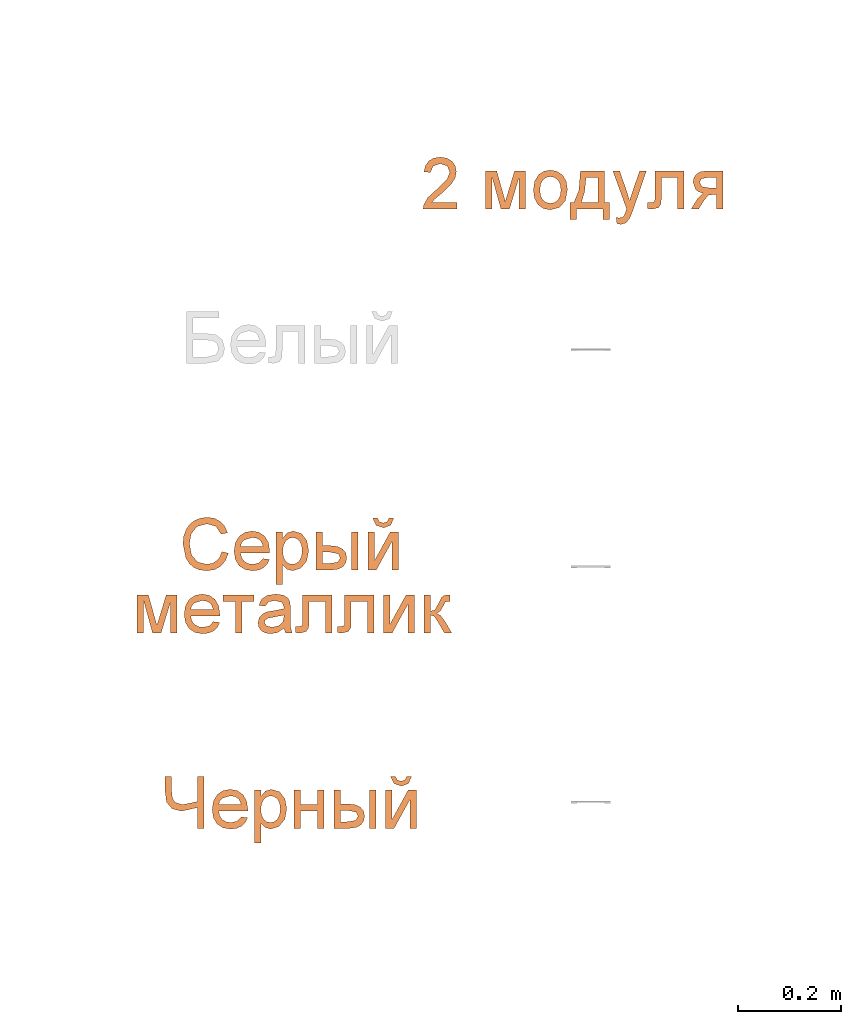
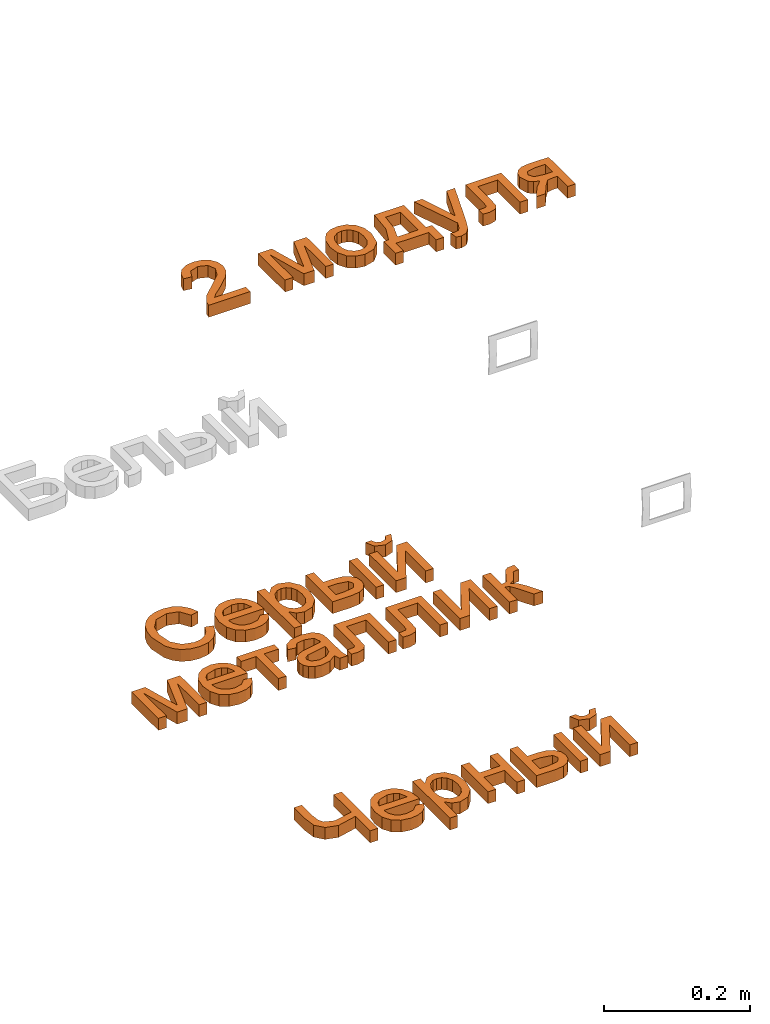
# One storey, part 60 of 87: 3 proxies.
"""IFC2X3 building model written with IfcOpenShell, lengths in millimetres."""

from ifc_helpers import new_model, entity, si_unit, converted_unit, derived_unit, direction, frame, origin, origin_2d_with_axis, place, context, subcontext, project, spatial, polyline, rectangle, outline, extrude, element, save


model = new_model("IFC2X3")

# Units and contexts
model_context = context("Model", 3, precision=0.01, world=origin(), true_north=direction((6.12303176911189e-17, 1.0)))
body_context = subcontext(model_context, "Body", "Model", "MODEL_VIEW")
ifc_project = project(units=[si_unit("LENGTHUNIT", "METRE", prefix="MILLI"), si_unit("AREAUNIT", "SQUARE_METRE"), si_unit("VOLUMEUNIT", "CUBIC_METRE"), converted_unit("PLANEANGLEUNIT", "DEGREE", entity("IfcRatioMeasure", 0.0174532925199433), si_unit("PLANEANGLEUNIT", "RADIAN"), dimensions=[0, 0, 0, 0, 0, 0, 0]), si_unit("MASSUNIT", "GRAM", prefix="KILO"), derived_unit("MASSDENSITYUNIT", [(si_unit("MASSUNIT", "GRAM", prefix="KILO"), 1), (si_unit("LENGTHUNIT", "METRE"), -3)]), si_unit("TIMEUNIT", "SECOND"), si_unit("FREQUENCYUNIT", "HERTZ"), si_unit("THERMODYNAMICTEMPERATUREUNIT", "DEGREE_CELSIUS"), derived_unit("THERMALTRANSMITTANCEUNIT", [(si_unit("MASSUNIT", "GRAM", prefix="KILO"), 1), (si_unit("THERMODYNAMICTEMPERATUREUNIT", "KELVIN"), -1), (si_unit("TIMEUNIT", "SECOND"), -3)]), derived_unit("VOLUMETRICFLOWRATEUNIT", [(si_unit("LENGTHUNIT", "METRE"), 3), (si_unit("TIMEUNIT", "SECOND"), -1)]), si_unit("ELECTRICCURRENTUNIT", "AMPERE"), si_unit("ELECTRICVOLTAGEUNIT", "VOLT"), si_unit("POWERUNIT", "WATT"), si_unit("FORCEUNIT", "NEWTON", prefix="KILO"), si_unit("ILLUMINANCEUNIT", "LUX"), si_unit("LUMINOUSFLUXUNIT", "LUMEN"), si_unit("LUMINOUSINTENSITYUNIT", "CANDELA"), derived_unit("USERDEFINED", [(si_unit("MASSUNIT", "GRAM", prefix="KILO"), -1), (si_unit("LENGTHUNIT", "METRE"), -2), (si_unit("TIMEUNIT", "SECOND"), 3), (si_unit("LUMINOUSFLUXUNIT", "LUMEN"), 1)]), derived_unit("LINEARVELOCITYUNIT", [(si_unit("LENGTHUNIT", "METRE"), 1), (si_unit("TIMEUNIT", "SECOND"), -1)]), si_unit("PRESSUREUNIT", "PASCAL"), derived_unit("USERDEFINED", [(si_unit("LENGTHUNIT", "METRE"), -2), (si_unit("MASSUNIT", "GRAM", prefix="KILO"), 1), (si_unit("TIMEUNIT", "SECOND"), -2)])], contexts=[model_context])

# Site, building, storey
site_placement = place(None, origin())
site = spatial("IfcSite", under=ifc_project, at=site_placement, Name="Default", CompositionType="ELEMENT")
building_placement = place(site_placement, origin())
building = spatial("IfcBuilding", under=site, at=building_placement, Name="Наименование здания", CompositionType="ELEMENT")
storey_placement = place(building_placement, origin())
storey = spatial("IfcBuildingStorey", under=building, at=storey_placement, Name="Этаж 01", CompositionType="ELEMENT", Elevation=0.0)

# Proxies
proxy_1_placement = place(storey_placement, origin())
element("IfcBuildingElementProxy", 1, at=proxy_1_placement, inside=storey, Name="Текст модели:100 мм Arial", ObjectType="Текст модели:100 мм Arial", context=body_context, shape_type="SweptSolid", body=[
    extrude(outline(polyline([(1.51482499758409, -34.4161092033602), (0.106407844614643, -47.3070398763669), (15.8423468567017, -47.0569587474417), (29.055696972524, -42.3279421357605), (39.3932861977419, -33.4650471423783), (46.5019425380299, -20.8133308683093), (50.1054677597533, -6.6050258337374), (49.563695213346, 5.9640118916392), (45.1423030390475, 17.1113098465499), (37.1069693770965, 27.0543955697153), (13.842765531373, 41.4649352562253), (-0.385561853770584, 45.2497080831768), (-13.7947428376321, 45.5463194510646), (-25.9267527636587, 42.4308274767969), (-36.3235669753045, 35.9792902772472), (-44.6338782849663, 26.8094665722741), (-50.5063795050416, 15.5391150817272), (-53.5414697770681, 1.96814719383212), (-52.074324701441, -10.7537866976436), (-46.3177039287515, -22.1661847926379), (-36.4843671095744, -31.8085452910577), (-29.2483218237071, -21.1187569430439), (-40.0515191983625, -6.02732816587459), (-38.5860312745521, 11.5610351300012), (-26.6200251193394, 28.0408775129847), (-9.20796903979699, 33.327216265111), (9.38287380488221, 29.7265712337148), (28.2800845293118, 18.5384764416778), (37.0403955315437, 2.61944954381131), (35.1968742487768, -15.2062682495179), (30.0363719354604, -24.4614258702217), (22.5795019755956, -30.981293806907), (13.0108058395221, -34.4161092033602), (1.51482499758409, -34.4161092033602)])), frame((76558.772011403, -8017.95411281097, 0.0), z_axis=(0.0, 0.0, -1.0), x_axis=(-0.353343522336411, -0.93549364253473, 0.0)), (0.0, 0.0, -1.0), 20.0),
    extrude(outline(polyline([(-8.10128238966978, -20.3751729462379), (-15.5352214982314, -30.3140016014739), (-5.78400372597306, -33.5775071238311), (4.12185089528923, -33.3132173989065), (13.8776168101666, -29.4480778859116), (23.1785684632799, -21.9090340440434), (31.6380426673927, -9.59237957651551), (34.1620486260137, 3.74135328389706), (30.6040508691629, 17.2442201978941), (20.8175139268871, 30.0682768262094), (7.27698270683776, 39.7846728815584), (-6.66179525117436, 43.1117813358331), (-19.9642596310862, 40.4221234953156), (-31.595850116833, 32.0882206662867), (-39.2435519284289, 20.5090048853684), (-41.3106827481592, 7.34319797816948), (-37.4373707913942, -6.34962495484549), (-27.2637442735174, -19.5098888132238), (-24.7804584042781, -21.810680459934), (14.4643272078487, 18.7422646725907), (19.707198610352, 10.6437992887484), (21.1614672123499, 2.21005051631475), (19.1472085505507, -5.98136753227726), (13.9844981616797, -13.3528407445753), (3.5368460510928, -20.3751729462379), (-8.10128238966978, -20.3751729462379)]), holes=[polyline([(5.44081225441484, 27.4746984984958), (-25.1227061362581, -4.107603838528), (-29.8038819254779, 7.41909510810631), (-27.8851342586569, 15.7498710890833), (-22.5382240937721, 23.3910349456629), (-8.40970331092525, 31.2368652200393), (-1.08072680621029, 30.9147288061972), (5.44081225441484, 27.4746984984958)])]), frame((76650.0613302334, -8036.91845939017, 0.0), z_axis=(0.0, 0.0, -1.0), x_axis=(-0.695421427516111, -0.718602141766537, 0.0)), (0.0, 0.0, -1.0), 20.0),
    extrude(outline(polyline([(-28.8983569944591, -61.2335493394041), (-16.3413182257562, -61.2335493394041), (-16.3413182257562, -23.1700255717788), (-8.38280439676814, -31.3247431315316), (2.54329085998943, -34.5498419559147), (18.4235303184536, -29.7305878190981), (29.9259740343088, -15.8736993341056), (33.8868368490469, 4.4701749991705), (30.3796951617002, 23.8207679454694), (19.9808974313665, 37.505978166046), (4.06386977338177, 42.3620205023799), (-7.65930313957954, 38.8916670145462), (-16.3413182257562, 28.4806065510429), (-16.3413182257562, 40.7923906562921), (-28.8983569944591, 40.7923906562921), (-28.8983569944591, -61.2335493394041)]), holes=[polyline([(-16.3413182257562, 3.3174780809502), (-14.8912500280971, 14.7064915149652), (-10.5410454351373, 23.0236902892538), (-4.30851130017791, 28.1096588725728), (2.78854552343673, 29.8049817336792), (9.85801119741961, 28.2108264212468), (15.8606190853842, 23.4283604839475), (19.9625033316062, 15.4453211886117), (21.329798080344, 4.24944580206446), (19.9287808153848, -7.43080754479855), (15.7257290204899, -15.5916564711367), (9.56063991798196, -20.3925165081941), (2.2735107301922, -21.9928031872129), (-4.89712249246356, -20.4476988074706), (-10.9089274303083, -15.8123856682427), (-14.9832205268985, -7.93971097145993), (-16.3413182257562, 3.3174780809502)])]), frame((76724.4963658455, -8034.26079810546, 0.0)), (0.0, 0.0, 1.0), 20.0),
    extrude(outline(polyline([(-42.3988715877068, -34.5139341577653), (31.3737311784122, -34.5139341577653), (31.3737311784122, -3.73447389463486), (29.6538828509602, 9.31613988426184), (24.4943378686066, 18.2526066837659), (16.9129030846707, 23.4121516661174), (7.92738535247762, 25.1319999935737), (-1.94104916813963, 23.0810578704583), (-9.42438208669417, 16.9282315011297), (-14.1424686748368, 6.9862205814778), (-15.7151642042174, -6.43227519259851), (-15.7151642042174, -21.9568953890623), (-42.3988715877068, -21.9568953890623), (-42.3988715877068, -34.5139341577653)]), holes=[polyline([(18.8166924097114, -21.9568953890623), (-3.15812543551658, -21.9568953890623), (-3.15812543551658, -7.41329384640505), (0.226388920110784, 8.8838785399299), (7.95191081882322, 12.5749612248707), (16.1802047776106, 7.59629155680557), (18.8166924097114, -9.05650009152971), (18.8166924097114, -21.9568953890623)])]), frame((76807.0238054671, -8035.86727903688, 0.0), z_axis=(0.0, 0.0, 1.0), x_axis=(0.0, -1.0, 0.0)), (0.0, 0.0, 1.0), 20.0),
    extrude(outline(polyline([(-11.1429830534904, -6.65049913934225), (-15.3141401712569, -15.0941956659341), (-0.0922190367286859, -15.8161107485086), (10.2631635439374, -5.84547547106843), (12.4162171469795, 9.42172447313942), (2.76087400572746, 21.4951559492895), (-1.41028311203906, 13.0514594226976), (3.36929976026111, 6.75127419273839), (2.31913688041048, -0.662833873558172), (-3.16906596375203, -6.65049913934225), (-11.1429830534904, -6.65049913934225)])), frame((76902.8786664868, -7973.82964027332, 0.0), z_axis=(0.0, 0.0, -1.0), x_axis=(-0.442902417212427, -0.896569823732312, 0.0)), (0.0, 0.0, -1.0), 20.0),
    extrude(outline(polyline([(-40.5839870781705, -38.4502715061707), (33.1886156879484, -38.4502715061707), (33.1886156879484, -25.8932327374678), (-29.0570178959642, -25.8932327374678), (33.1886156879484, -8.62730443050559), (33.1886156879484, 7.85380895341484), (-26.2120637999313, 25.9045521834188), (33.1886156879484, 25.9045521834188), (33.1886156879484, 38.4615909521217), (-40.5839870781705, 38.4615909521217), (-40.5839870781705, 17.7620973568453), (18.4733358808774, -0.190544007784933), (-40.5839870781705, -16.8433356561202), (-40.5839870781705, -38.4502715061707)])), frame((76464.8567617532, -8156.02721237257, 0.0), z_axis=(0.0, 0.0, 1.0), x_axis=(0.0, -1.0, 0.0)), (0.0, 0.0, 1.0), 20.0),
    extrude(outline(polyline([(-8.10128238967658, -20.3751729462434), (-15.5352214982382, -30.3140016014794), (-5.78400372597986, -33.5775071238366), (4.12185089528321, -33.3132173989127), (13.8776168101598, -29.4480778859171), (23.178568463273, -21.9090340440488), (31.6380426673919, -9.59237957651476), (34.1620486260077, 3.74135328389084), (30.604050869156, 17.2442201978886), (20.8175139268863, 30.0682768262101), (7.27698270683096, 39.7846728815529), (-6.66179525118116, 43.1117813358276), (-19.964259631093, 40.4221234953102), (-31.5958501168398, 32.0882206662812), (-39.2435519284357, 20.5090048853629), (-41.3106827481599, 7.34319797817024), (-37.437370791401, -6.34962495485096), (-27.2637442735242, -19.5098888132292), (-24.7804584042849, -21.8106804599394), (14.4643272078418, 18.7422646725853), (19.707198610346, 10.6437992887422), (21.1614672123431, 2.21005051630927), (19.1472085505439, -5.98136753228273), (13.9844981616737, -13.3528407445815), (3.536846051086, -20.3751729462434), (-8.10128238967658, -20.3751729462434)]), holes=[polyline([(5.44081225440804, 27.4746984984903), (-25.1227061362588, -4.10760383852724), (-29.803881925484, 7.41909510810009), (-27.8851342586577, 15.749871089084), (-22.5382240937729, 23.3910349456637), (-8.40970331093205, 31.2368652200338), (-1.08072680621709, 30.9147288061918), (5.44081225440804, 27.4746984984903)])]), frame((76553.529094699, -8158.8932772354, 0.0), z_axis=(0.0, 0.0, -1.0), x_axis=(-0.695421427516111, -0.718602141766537, 0.0)), (0.0, 0.0, -1.0), 20.0),
    extrude(outline(polyline([(-24.7216700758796, -29.8229670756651), (-12.1646313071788, -29.8229670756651), (-12.1646313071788, -6.27851938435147), (49.0509326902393, -6.27851938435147), (49.0509326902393, 6.27851938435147), (-12.1646313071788, 6.27851938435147), (-12.1646313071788, 29.8229670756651), (-24.7216700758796, 29.8229670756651), (-24.7216700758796, -29.8229670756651)])), frame((76622.610221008, -8140.16489537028, 0.0), z_axis=(0.0, 0.0, 1.0), x_axis=(0.0, -1.0, 0.0)), (0.0, 0.0, 1.0), 20.0),
    extrude(outline(polyline([(32.0508237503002, 7.88266535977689), (41.9780345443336, 7.88266535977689), (45.948918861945, 19.7953183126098), (35.1414436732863, 20.7608946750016), (14.2438893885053, 27.0545912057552), (-0.577126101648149, 31.9949297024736), (-11.1945882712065, 34.8877809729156), (-20.4974705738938, 33.9299602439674), (-28.5323068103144, 27.5470739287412), (-35.4619652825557, 13.8157249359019), (-38.3044049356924, -2.69989645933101), (-34.9462156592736, -15.3493345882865), (-25.030638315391, -24.3807697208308), (-19.5706723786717, -12.9644773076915), (-25.786812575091, -4.50695904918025), (-24.0611841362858, 8.30922519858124), (-16.227994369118, 20.3304570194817), (-6.3395617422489, 20.6794605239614), (-3.71040200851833, 19.7255176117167), (-6.50243004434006, -2.30048133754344), (-8.14662433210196, -13.2049019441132), (-7.01817966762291, -22.8490321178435), (-2.17478658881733, -31.1204151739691), (6.48825595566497, -36.5416029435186), (15.0010331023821, -37.7020395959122), (22.9495879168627, -35.3200906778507), (29.637852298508, -29.3899394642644), (34.3697581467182, -19.9057692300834), (36.2737661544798, -6.36055543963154), (32.0508237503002, 7.88266535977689)]), holes=[polyline([(8.22551784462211, 15.8244339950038), (11.5759514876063, 14.6300664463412), (20.1614376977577, 9.67421668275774), (24.4696920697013, -0.396473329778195), (23.3024692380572, -13.3987927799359), (17.249197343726, -22.9498553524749), (9.62153186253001, -24.3497471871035), (5.58084684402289, -21.1932043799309), (3.98706417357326, -15.5044472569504), (5.47226797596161, -4.61166010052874), (8.22551784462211, 15.8244339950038)])]), frame((76692.8959790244, -8151.8846854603, 0.0), z_axis=(0.0, 0.0, 1.0), x_axis=(0.316227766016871, -0.948683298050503, 0.0)), (0.0, 0.0, 1.0), 20.0),
    extrude(outline(polyline([(-49.3689973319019, 12.5447760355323), (-49.3689973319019, -43.9618984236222), (24.3300290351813, -43.9618984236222), (24.3300290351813, -31.4048596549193), (-36.8119585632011, -31.4048596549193), (-36.8119585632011, -0.0122627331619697), (-1.61791435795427, -0.0122627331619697), (14.6179443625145, 0.833865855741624), (21.4728122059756, 5.48144172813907), (24.403605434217, 16.4688506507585), (23.7659433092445, 26.6714446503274), (11.8465666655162, 26.6714446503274), (11.8465666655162, 21.0551128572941), (11.0740144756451, 15.3774673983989), (8.62146784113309, 13.1088617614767), (-2.32915288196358, 12.5447760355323), (-49.3689973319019, 12.5447760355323)])), frame((76759.1557548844, -8164.8122226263, 0.0), z_axis=(0.0, 0.0, -1.0), x_axis=(0.0, -1.0, 0.0)), (0.0, 0.0, -1.0), 20.0),
    extrude(outline(polyline([(-36.9206370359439, -29.8425874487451), (36.851965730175, -29.8425874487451), (36.851965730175, -13.4105249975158), (-19.0660975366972, 17.2463079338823), (36.851965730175, 17.2463079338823), (36.851965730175, 29.8033467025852), (-36.9206370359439, 29.8033467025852), (-36.9206370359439, 13.5674879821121), (19.34078275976, -17.2855486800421), (-36.9206370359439, -17.2855486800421), (-36.9206370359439, -29.8425874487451)])), frame((76902.8087689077, -8030.38904448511, 0.0), z_axis=(0.0, 0.0, 1.0), x_axis=(0.0, -1.0, 0.0)), (0.0, 0.0, 1.0), 20.0),
    extrude(rectangle(XDim=73.7726027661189, YDim=12.5570387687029, at=origin_2d_with_axis()), frame((76847.8521039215, -8030.35470883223, 0.0), z_axis=(0.0, 0.0, 1.0), x_axis=(0.0, -1.0, 0.0)), (0.0, 0.0, 1.0), 20.0),
    extrude(outline(polyline([(-49.3689973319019, 12.5447760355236), (-49.3689973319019, -43.9618984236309), (24.3300290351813, -43.9618984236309), (24.3300290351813, -31.4048596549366), (-36.8119585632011, -31.4048596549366), (-36.8119585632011, -0.0122627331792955), (-1.61791435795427, -0.0122627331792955), (14.6179443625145, 0.833865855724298), (21.4728122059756, 5.4814417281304), (24.403605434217, 16.4688506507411), (23.7659433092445, 26.6714446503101), (11.8465666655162, 26.6714446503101), (11.8465666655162, 21.0551128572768), (11.0740144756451, 15.3774673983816), (8.62146784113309, 13.1088617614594), (-2.32915288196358, 12.5447760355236), (-49.3689973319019, 12.5447760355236)])), frame((76840.776506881, -8164.8122226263, 0.0), z_axis=(0.0, 0.0, -1.0), x_axis=(0.0, -1.0, 0.0)), (0.0, 0.0, -1.0), 20.0),
    extrude(outline(polyline([(-36.9206370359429, -29.8425874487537), (36.851965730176, -29.8425874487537), (36.851965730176, -13.4105249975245), (-19.0660975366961, 17.2463079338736), (36.851965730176, 17.2463079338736), (36.851965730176, 29.8033467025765), (-36.9206370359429, 29.8033467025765), (-36.9206370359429, 13.5674879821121), (19.3407827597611, -17.2855486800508), (-36.9206370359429, -17.2855486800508), (-36.9206370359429, -29.8425874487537)])), frame((76933.4165509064, -8152.36386233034, 0.0), z_axis=(0.0, 0.0, 1.0), x_axis=(0.0, -1.0, 0.0)), (0.0, 0.0, 1.0), 20.0),
    extrude(outline(polyline([(-30.3295712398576, -29.5353037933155), (43.4430315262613, -29.5353037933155), (43.4430315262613, -16.9782650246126), (8.91117491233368, -16.9782650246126), (11.2288314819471, -10.2337617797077), (20.8060260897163, -3.61188586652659), (43.4430315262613, 9.55828956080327), (43.4430315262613, 23.8321109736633), (20.3155167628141, 10.3921554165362), (10.0209522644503, 2.61758258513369), (5.13425309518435, -5.30414304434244), (0.75645735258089, 1.79597946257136), (-8.18307513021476, 6.86048826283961), (-16.4481572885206, 11.176970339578), (-17.7725324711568, 17.3083369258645), (-17.6989560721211, 20.6928512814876), (-30.3295712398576, 20.6928512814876), (-30.3295712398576, 18.2893555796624), (-29.3730780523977, 9.10456843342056), (-25.681995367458, 4.05232236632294), (-14.3389671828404, -1.67437402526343), (-1.19331722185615, -8.56603006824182), (1.06302568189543, -16.9782650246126), (-30.3295712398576, -16.9782650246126), (-30.3295712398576, -29.5353037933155)])), frame((77011.5907595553, -8145.77279653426, 0.0), z_axis=(0.0, 0.0, 1.0), x_axis=(0.0, -1.0, 0.0)), (0.0, 0.0, 1.0), 20.0),
])
proxy_2_placement = place(storey_placement, origin())
element("IfcBuildingElementProxy", 2, at=proxy_2_placement, inside=storey, Name="Текст модели:100 мм Arial", ObjectType="Текст модели:100 мм Arial", context=body_context, shape_type="SweptSolid", body=[
    extrude(outline(polyline([(-57.0521744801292, -41.5683661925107), (43.4041356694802, -41.5683661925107), (43.4041356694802, -29.0113274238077), (-5.30344049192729, -29.0113274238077), (-11.5329089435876, 0.689012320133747), (-6.37029827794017, 15.1835629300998), (1.59741260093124, 19.7085114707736), (15.1753239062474, 21.2168276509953), (43.4041356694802, 21.2168276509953), (43.4041356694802, 33.7738664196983), (13.4830667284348, 33.7738664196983), (-6.5174510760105, 31.0883278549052), (-19.1235407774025, 20.4442754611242), (-24.0899477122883, 2.08696390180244), (-16.8304096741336, -29.0113274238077), (-57.0521744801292, -29.0113274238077), (-57.0521744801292, -41.5683661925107)])), frame((76514.3325863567, -8510.18883573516, 0.0), z_axis=(0.0, 0.0, 1.0), x_axis=(0.0, 1.0, 0.0)), (0.0, 0.0, 1.0), 20.0),
    extrude(outline(polyline([(-8.10128238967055, -20.3751729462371), (-15.5352214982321, -30.3140016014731), (-5.78400372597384, -33.5775071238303), (4.12185089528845, -33.3132173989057), (13.8776168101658, -29.4480778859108), (23.1785684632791, -21.9090340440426), (31.6380426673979, -9.59237957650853), (34.1620486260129, 3.74135328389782), (30.6040508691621, 17.2442201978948), (20.8175139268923, 30.0682768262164), (7.27698270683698, 39.7846728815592), (-6.66179525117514, 43.1117813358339), (-19.9642596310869, 40.4221234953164), (-31.5958501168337, 32.0882206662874), (-39.2435519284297, 20.5090048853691), (-41.3106827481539, 7.34319797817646), (-37.437370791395, -6.34962495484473), (-27.2637442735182, -19.509888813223), (-24.7804584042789, -21.8106804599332), (14.4643272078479, 18.7422646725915), (19.7071986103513, 10.6437992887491), (21.1614672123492, 2.2100505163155), (19.1472085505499, -5.9813675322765), (13.984498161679, -13.3528407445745), (3.53684605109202, -20.3751729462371), (-8.10128238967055, -20.3751729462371)]), holes=[polyline([(5.44081225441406, 27.4746984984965), (-25.1227061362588, -4.10760383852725), (-29.8038819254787, 7.41909510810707), (-27.8851342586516, 15.7498710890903), (-22.5382240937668, 23.3910349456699), (-8.40970331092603, 31.2368652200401), (-1.08072680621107, 30.914728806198), (5.44081225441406, 27.4746984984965)])]), frame((76607.681324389, -8536.91845939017, 0.0), z_axis=(0.0, 0.0, -1.0), x_axis=(-0.695421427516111, -0.718602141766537, 0.0)), (0.0, 0.0, -1.0), 20.0),
    extrude(outline(polyline([(-28.8983569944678, -61.233549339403), (-16.3413182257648, -61.233549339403), (-16.3413182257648, -23.1700255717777), (-8.38280439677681, -31.3247431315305), (2.5432908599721, -34.5498419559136), (18.4235303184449, -29.730587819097), (29.9259740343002, -15.8736993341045), (33.8868368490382, 4.47017499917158), (30.3796951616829, 23.8207679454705), (19.9808974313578, 37.5059781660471), (4.06386977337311, 42.362020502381), (-7.65930313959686, 38.8916670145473), (-16.3413182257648, 28.480606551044), (-16.3413182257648, 40.7923906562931), (-28.8983569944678, 40.7923906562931), (-28.8983569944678, -61.233549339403)]), holes=[polyline([(-16.3413182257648, 3.31747808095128), (-14.8912500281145, 14.7064915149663), (-10.541045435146, 23.0236902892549), (-4.30851130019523, 28.1096588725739), (2.78854552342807, 29.8049817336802), (9.85801119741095, 28.2108264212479), (15.8606190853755, 23.4283604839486), (19.9625033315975, 15.4453211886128), (21.3297980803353, 4.24944580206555), (19.9287808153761, -7.43080754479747), (15.7257290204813, -15.5916564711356), (9.5606399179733, -20.392516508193), (2.27351073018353, -21.9928031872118), (-4.89712249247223, -20.4476988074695), (-10.9089274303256, -15.8123856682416), (-14.9832205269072, -7.93971097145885), (-16.3413182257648, 3.31747808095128)])]), frame((76682.1163600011, -8534.26079810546, 0.0)), (0.0, 0.0, 1.0), 20.0),
    extrude(outline(polyline([(-36.1014864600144, -29.0381521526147), (37.6711163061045, -29.0381521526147), (37.6711163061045, -16.4811133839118), (4.7088895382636, -16.4811133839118), (4.7088895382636, 16.4811133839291), (37.6711163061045, 16.4811133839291), (37.6711163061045, 29.038152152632), (-36.1014864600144, 29.038152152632), (-36.1014864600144, 16.4811133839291), (-7.84814923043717, 16.4811133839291), (-7.84814923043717, -16.4811133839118), (-36.1014864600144, -16.4811133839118), (-36.1014864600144, -29.0381521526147)])), frame((76759.1680176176, -8529.56989390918, 0.0), z_axis=(0.0, 0.0, 1.0), x_axis=(0.0, -1.0, 0.0)), (0.0, 0.0, 1.0), 20.0),
    extrude(outline(polyline([(-42.3988715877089, -34.5139341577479), (31.37373117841, -34.5139341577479), (31.37373117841, -3.73447389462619), (29.653882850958, 9.3161398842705), (24.4943378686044, 18.2526066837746), (16.9129030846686, 23.4121516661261), (7.92738535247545, 25.1319999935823), (-1.9410491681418, 23.081057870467), (-9.42438208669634, 16.9282315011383), (-14.142468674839, 6.98622058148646), (-15.7151642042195, -6.43227519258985), (-15.7151642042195, -21.9568953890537), (-42.3988715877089, -21.9568953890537), (-42.3988715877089, -34.5139341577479)]), holes=[polyline([(18.8166924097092, -21.9568953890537), (-3.15812543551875, -21.9568953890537), (-3.15812543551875, -7.41329384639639), (0.226388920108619, 8.88387853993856), (7.95191081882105, 12.5749612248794), (16.1802047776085, 7.59629155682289), (18.8166924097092, -9.05650009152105), (18.8166924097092, -21.9568953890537)])]), frame((76841.555662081, -8535.86727903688, 0.0), z_axis=(0.0, 0.0, 1.0), x_axis=(0.0, -1.0, 0.0)), (0.0, 0.0, 1.0), 20.0),
    extrude(outline(polyline([(-11.1429830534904, -6.65049913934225), (-15.3141401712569, -15.0941956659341), (-0.0922190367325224, -15.8161107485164), (10.2631635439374, -5.84547547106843), (12.4162171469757, 9.42172447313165), (2.76087400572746, 21.4951559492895), (-1.41028311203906, 13.0514594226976), (3.36929976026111, 6.75127419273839), (2.31913688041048, -0.662833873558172), (-3.16906596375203, -6.65049913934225), (-11.1429830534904, -6.65049913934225)])), frame((76937.4105231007, -8473.82964027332, 0.0), z_axis=(0.0, 0.0, -1.0), x_axis=(-0.442902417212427, -0.896569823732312, 0.0)), (0.0, 0.0, -1.0), 20.0),
    extrude(outline(polyline([(-36.9206370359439, -29.8425874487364), (36.851965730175, -29.8425874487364), (36.851965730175, -13.4105249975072), (-19.0660975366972, 17.2463079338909), (36.851965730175, 17.2463079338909), (36.851965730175, 29.8033467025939), (-36.9206370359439, 29.8033467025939), (-36.9206370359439, 13.5674879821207), (19.34078275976, -17.2855486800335), (-36.9206370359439, -17.2855486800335), (-36.9206370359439, -29.8425874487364)])), frame((76937.3406255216, -8530.38904448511, 0.0), z_axis=(0.0, 0.0, 1.0), x_axis=(0.0, -1.0, 0.0)), (0.0, 0.0, 1.0), 20.0),
    extrude(rectangle(XDim=73.7726027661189, YDim=12.5570387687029, at=origin_2d_with_axis()), frame((76882.3839605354, -8530.35470883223, 0.0), z_axis=(0.0, 0.0, 1.0), x_axis=(0.0, -1.0, 0.0)), (0.0, 0.0, 1.0), 20.0),
])
proxy_3_placement = place(storey_placement, origin())
element("IfcBuildingElementProxy", 3, at=proxy_3_placement, inside=storey, Name="Текст модели:100 мм Arial", ObjectType="Текст модели:100 мм Arial", context=body_context, shape_type="SweptSolid", body=[
    extrude(outline(polyline([(-32.3858783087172, -45.1669477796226), (-32.3858783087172, -57.7239865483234), (33.5385752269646, -57.7239865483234), (32.1896745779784, -49.0664969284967), (24.5622545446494, -35.7369059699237), (8.8414306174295, -21.1810416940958), (-12.8390816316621, -0.260818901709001), (-18.2592096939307, 13.9639515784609), (-13.1456499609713, 25.4786580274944), (0.208466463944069, 30.1752848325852), (14.1266686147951, 25.5890226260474), (19.4119066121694, 12.9093565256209), (31.9689453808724, 14.4789863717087), (28.9247218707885, 26.6252235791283), (22.3426998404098, 35.4973110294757), (12.5662358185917, 40.9235704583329), (-0.061313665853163, 42.732323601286), (-12.7808336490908, 40.721235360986), (-22.5389035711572, 34.6879706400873), (-28.7469122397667, 25.6748617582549), (-30.8162484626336, 14.7242410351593), (-28.5844310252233, 2.81712712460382), (-21.1654774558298, -9.49465698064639), (-3.17604789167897, -26.6992716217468), (11.2694517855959, -38.7780637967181), (16.9348345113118, -45.1669477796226), (-32.3858783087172, -45.1669477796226)])), frame((77013.4622660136, -7310.75040858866, 0.0), z_axis=(0.0, 0.0, -1.0), x_axis=(-1.0, 0.0, 0.0)), (0.0, 0.0, -1.0), 20.0),
    extrude(outline(polyline([(-40.5839870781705, -38.4502715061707), (33.1886156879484, -38.4502715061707), (33.1886156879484, -25.8932327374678), (-29.0570178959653, -25.8932327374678), (33.1886156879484, -8.62730443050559), (33.1886156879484, 7.85380895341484), (-26.2120637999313, 25.9045521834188), (33.1886156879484, 25.9045521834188), (33.1886156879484, 38.4615909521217), (-40.5839870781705, 38.4615909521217), (-40.5839870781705, 17.7620973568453), (18.4733358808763, -0.190544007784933), (-40.5839870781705, -16.8433356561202), (-40.5839870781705, -38.4502715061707)])), frame((77139.2354604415, -7335.28577944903, 0.0), z_axis=(0.0, 0.0, 1.0), x_axis=(0.0, -1.0, 0.0)), (0.0, 0.0, 1.0), 20.0),
    extrude(outline(polyline([(-2.34029740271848, -31.6984909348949), (14.2731811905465, -31.6984909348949), (27.1869525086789, -26.5873672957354), (35.9909592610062, -17.1811275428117), (40.2751441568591, -4.29577920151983), (38.1491713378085, 13.169045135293), (27.251495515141, 26.6485362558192), (5.67797919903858, 33.7446283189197), (-10.1280544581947, 33.6081083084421), (-22.8059382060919, 28.3900569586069), (-31.6389568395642, 18.9754531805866), (-35.910395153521, 6.24927588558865), (-35.5406401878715, -5.97109031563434), (-30.853588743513, -16.7835237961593), (-19.5870121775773, -26.5692340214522), (-2.34029740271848, -31.6984909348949)]), holes=[polyline([(-0.64294961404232, -19.2566729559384), (-11.6948097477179, -16.2599663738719), (-19.0989004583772, -10.8341828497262), (-22.9822632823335, -3.67356758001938), (-23.4719397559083, 4.52763423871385), (-20.7783225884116, 12.2046648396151), (-15.0781786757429, 18.0357050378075), (-6.56600936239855, 21.2863283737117), (4.56368400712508, 21.2221083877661), (15.8675929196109, 18.1905150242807), (23.3961896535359, 12.7474982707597), (27.3267847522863, 5.59272509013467), (27.8366887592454, -2.57413755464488), (25.1317228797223, -10.333159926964), (19.4311586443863, -16.1672368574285), (10.8134498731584, -19.3753979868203), (-0.64294961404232, -19.2566729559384)])]), frame((77225.113361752, -7329.56024644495, 0.0), z_axis=(0.0, 0.0, 1.0), x_axis=(0.13710570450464, -0.99055642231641, 0.0)), (0.0, 0.0, 1.0), 20.0),
    extrude(outline(polyline([(-60.5357741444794, 21.8585403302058), (-64.1355131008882, -25.0925613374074), (-3.09908093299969, -29.7722219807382), (-3.81902872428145, -39.1624423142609), (29.0467424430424, -41.6822595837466), (30.0066728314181, -29.1619658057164), (9.66119544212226, -27.6020789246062), (13.6209082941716, 24.044132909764), (33.9663856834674, 22.4842460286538), (34.9263160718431, 35.0045398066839), (2.06054490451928, 37.5243570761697), (1.46058841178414, 29.6991734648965), (-23.1599571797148, 21.8585403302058), (-60.5357741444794, 21.8585403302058)]), holes=[polyline([(-48.8554194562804, 9.94335288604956), (-20.1051961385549, 10.6907678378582), (0.38066672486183, 15.6138429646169), (-2.13915054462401, -17.251928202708), (-50.6552889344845, -13.5321979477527), (-48.8554194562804, 9.94335288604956)])]), frame((77301.5987640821, -7356.7314131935, 0.0), z_axis=(0.0, 0.0, -1.0), x_axis=(-0.0764456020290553, -0.997073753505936, 0.0)), (0.0, 0.0, -1.0), 20.0),
    extrude(outline(polyline([(-9.37518561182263, -42.4598564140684), (-1.53988444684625, -42.4598564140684), (7.48239978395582, -37.7362595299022), (12.8451650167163, -27.6028387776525), (16.098889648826, -10.2155558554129), (26.1240678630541, 68.9356869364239), (13.2448947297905, 66.3022457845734), (7.58427059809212, 21.3872733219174), (5.65333119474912, 6.22303112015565), (-2.45833389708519, 21.2864004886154), (-24.5276055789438, 58.578795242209), (-37.502891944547, 55.9257015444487), (3.36457727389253, -10.7416452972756), (3.01267387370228, -13.9176809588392), (1.5009631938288, -23.6641922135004), (-1.3054357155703, -28.1807080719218), (-6.86672236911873, -30.7321996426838), (-13.3351736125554, -30.928341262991), (-9.37518561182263, -42.4598564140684)])), frame((77372.7562603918, -7357.00669583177, 0.0), z_axis=(0.0, 0.0, 1.0), x_axis=(0.979728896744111, -0.200327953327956, 0.0)), (0.0, 0.0, 1.0), 20.0),
    extrude(outline(polyline([(-49.3689973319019, 12.544776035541), (-49.3689973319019, -43.9618984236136), (24.3300290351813, -43.9618984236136), (24.3300290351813, -31.4048596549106), (-36.8119585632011, -31.4048596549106), (-36.8119585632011, -0.0122627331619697), (-1.61791435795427, -0.0122627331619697), (14.6179443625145, 0.833865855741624), (21.4728122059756, 5.48144172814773), (24.403605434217, 16.4688506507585), (23.7659433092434, 26.6714446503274), (11.8465666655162, 26.6714446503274), (11.8465666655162, 21.0551128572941), (11.0740144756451, 15.3774673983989), (8.62146784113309, 13.1088617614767), (-2.32915288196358, 12.544776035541), (-49.3689973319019, 12.544776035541)])), frame((77441.3826028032, -7344.07078970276, 0.0), z_axis=(0.0, 0.0, -1.0), x_axis=(0.0, -1.0, 0.0)), (0.0, 0.0, -1.0), 20.0),
    extrude(outline(polyline([(-36.1880068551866, -39.1855638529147), (-3.42198381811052, -39.1855638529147), (7.43666640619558, -37.7079045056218), (15.3890488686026, -33.2749264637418), (20.2634853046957, -26.4691095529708), (21.8882974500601, -17.872933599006), (17.130356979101, -3.64816311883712), (11.0970922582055, 1.34890064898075), (2.51317903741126, 3.97925691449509), (13.2062823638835, 14.4271055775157), (25.8123720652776, 34.5870389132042), (11.2932959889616, 34.5870389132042), (1.28690572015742, 18.645485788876), (-7.46868576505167, 7.92785699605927), (-16.7883629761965, 6.33370168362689), (-23.6309680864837, 6.33370168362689), (-23.6309680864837, 34.5870389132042), (-36.1880068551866, 34.5870389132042), (-36.1880068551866, -39.1855638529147)]), holes=[polyline([(-23.6309680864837, -26.628525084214), (-23.6309680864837, -6.22333708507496), (-10.7796237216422, -6.22333708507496), (4.90441200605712, -8.81077378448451), (9.33125868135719, -16.9164404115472), (6.32688905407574, -23.7222573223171), (-7.07627830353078, -26.628525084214), (-23.6309680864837, -26.628525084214)])]), frame((77524.4987269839, -7333.88735622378, 0.0), z_axis=(0.0, 0.0, 1.0), x_axis=(-1.0, 0.0, 0.0)), (0.0, 0.0, 1.0), 20.0),
])

save(model, "model.ifc")
